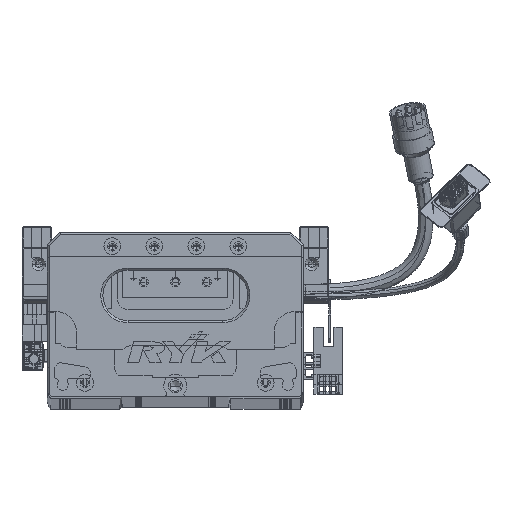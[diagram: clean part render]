
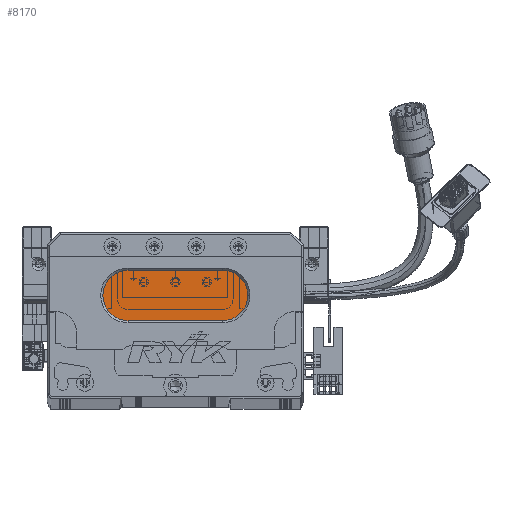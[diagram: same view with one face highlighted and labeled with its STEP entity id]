
A CAD part, top view. The second image highlights one B-rep face of the part: STEP entity #8170.
In plain terms, the highlighted planar face has unit normal (0, 0, 1) as drawn and (0, 0, -1) by its records, which use the part's own axes.
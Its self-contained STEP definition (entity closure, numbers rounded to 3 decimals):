
#4600 = CARTESIAN_POINT ( 'NONE',  ( 83.5, 36., 13. ) ) ;
#7978 = VERTEX_POINT ( 'NONE', #118734 ) ;
#8170 = ADVANCED_FACE ( 'NONE', ( #89670 ), #32037, .T. ) ;
#10222 = VERTEX_POINT ( 'NONE', #124443 ) ;
#12620 = CIRCLE ( 'NONE', #70788, 12. ) ;
#15036 = LINE ( 'NONE', #108906, #110373 ) ;
#16437 = CIRCLE ( 'NONE', #50425, 12. ) ;
#16795 = EDGE_CURVE ( 'NONE', #35444, #7978, #127837, .T. ) ;
#17413 = DIRECTION ( 'NONE',  ( 0., 0., -1. ) ) ;
#22780 = ORIENTED_EDGE ( 'NONE', *, *, #115089, .T. ) ;
#23810 = VERTEX_POINT ( 'NONE', #102092 ) ;
#27475 = ORIENTED_EDGE ( 'NONE', *, *, #16795, .T. ) ;
#32037 = PLANE ( 'NONE',  #131057 ) ;
#33356 = CARTESIAN_POINT ( 'NONE',  ( 83.5, 48., 13. ) ) ;
#34369 = DIRECTION ( 'NONE',  ( -1., 0., 0. ) ) ;
#35444 = VERTEX_POINT ( 'NONE', #99213 ) ;
#39947 = VERTEX_POINT ( 'NONE', #68762 ) ;
#49668 = EDGE_CURVE ( 'NONE', #39947, #10222, #66421, .T. ) ;
#50425 = AXIS2_PLACEMENT_3D ( 'NONE', #79413, #68782, #59888 ) ;
#53386 = EDGE_CURVE ( 'NONE', #10222, #23810, #15036, .T. ) ;
#54005 = EDGE_CURVE ( 'NONE', #7978, #39947, #16437, .T. ) ;
#59888 = DIRECTION ( 'NONE',  ( -1., 0., 0. ) ) ;
#65389 = DIRECTION ( 'NONE',  ( 0., 0., -1. ) ) ;
#66421 = CIRCLE ( 'NONE', #119940, 12. ) ;
#68762 = CARTESIAN_POINT ( 'NONE',  ( 26.5, 48., 13. ) ) ;
#68782 = DIRECTION ( 'NONE',  ( 0., 0., -1. ) ) ;
#70788 = AXIS2_PLACEMENT_3D ( 'NONE', #116432, #65389, #106217 ) ;
#70931 = ORIENTED_EDGE ( 'NONE', *, *, #49668, .T. ) ;
#79413 = CARTESIAN_POINT ( 'NONE',  ( 38.5, 48., 13. ) ) ;
#87158 = DIRECTION ( 'NONE',  ( -1., 0., 0. ) ) ;
#89670 = FACE_OUTER_BOUND ( 'NONE', #93640, .T. ) ;
#93640 = EDGE_LOOP ( 'NONE', ( #22780, #27475, #98527, #70931, #96120 ) ) ;
#96120 = ORIENTED_EDGE ( 'NONE', *, *, #53386, .T. ) ;
#97815 = CARTESIAN_POINT ( 'NONE',  ( 38.5, 48., 13. ) ) ;
#98527 = ORIENTED_EDGE ( 'NONE', *, *, #54005, .T. ) ;
#99213 = CARTESIAN_POINT ( 'NONE',  ( 83.5, 36., 13. ) ) ;
#102092 = CARTESIAN_POINT ( 'NONE',  ( 83.5, 60., 13. ) ) ;
#103143 = DIRECTION ( 'NONE',  ( 0., 0., -1. ) ) ;
#106217 = DIRECTION ( 'NONE',  ( -1., 0., 0. ) ) ;
#108906 = CARTESIAN_POINT ( 'NONE',  ( 83.5, 60., 13. ) ) ;
#110202 = DIRECTION ( 'NONE',  ( 1., 0., 0. ) ) ;
#110373 = VECTOR ( 'NONE', #110202, 1000. ) ;
#110379 = VECTOR ( 'NONE', #34369, 1000. ) ;
#113354 = DIRECTION ( 'NONE',  ( -1., 0., 0. ) ) ;
#115089 = EDGE_CURVE ( 'NONE', #23810, #35444, #12620, .T. ) ;
#116432 = CARTESIAN_POINT ( 'NONE',  ( 83.5, 48., 13. ) ) ;
#118734 = CARTESIAN_POINT ( 'NONE',  ( 38.5, 36., 13. ) ) ;
#119940 = AXIS2_PLACEMENT_3D ( 'NONE', #97815, #17413, #87158 ) ;
#124443 = CARTESIAN_POINT ( 'NONE',  ( 38.5, 60., 13. ) ) ;
#127837 = LINE ( 'NONE', #4600, #110379 ) ;
#131057 = AXIS2_PLACEMENT_3D ( 'NONE', #33356, #103143, #113354 ) ;
